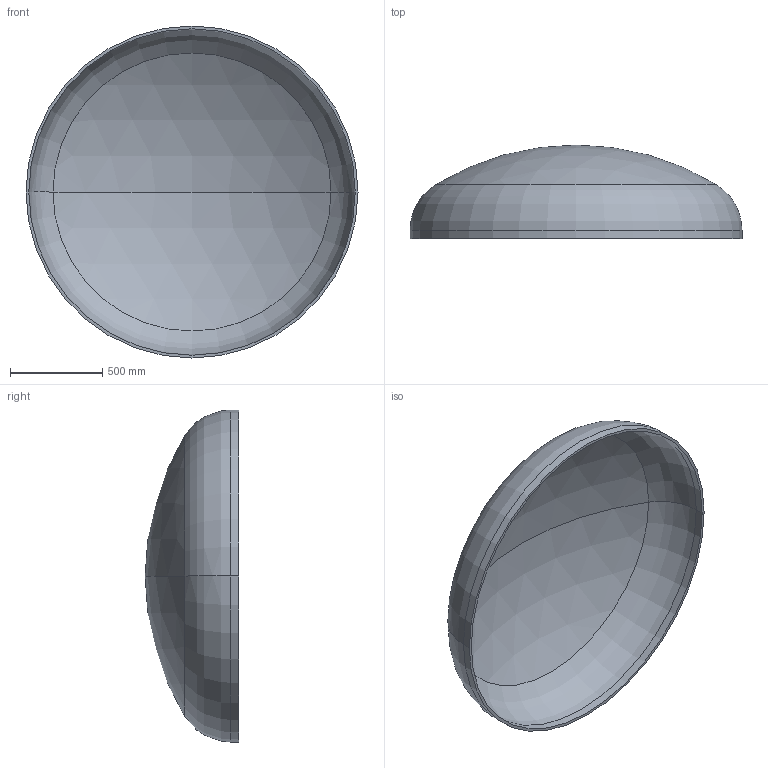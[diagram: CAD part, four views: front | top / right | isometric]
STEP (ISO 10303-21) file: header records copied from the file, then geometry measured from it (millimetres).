
FILE_DESCRIPTION (( 'STEP AP203' ), '1' );
FILE_NAME ('DIN 28013 Korbbogenform_-_Boden DIN 28013 - 1800 x 45 - I - s=15.step', '2016-07-01T12:18:19', ( '' ), ( '' ), 'SwSTEP 2.0', 'SolidWorks 2013', '' );
FILE_SCHEMA (( 'CONFIG_CONTROL_DESIGN' ));
Length unit declared in the file: millimetre
Products named in the file (1): DIN 28013 Korbbogenform_-_Boden DIN 28013 - 1800 x 45 - I - s=15
Bounding box: 1800 x 507.47 x 1800 mm (x, y, z)
Volume: 55990288.1 mm3; surface area: 7549956.3 mm2
Topology: 1 solids, 1 shells, 13 faces, 24 edges, 14 vertices
Faces by surface type: torus 4, cylinder 4, sphere 4, plane 1
Entity records: 407 total; most frequent: DIRECTION 72, CARTESIAN_POINT 52, ORIENTED_EDGE 48, AXIS2_PLACEMENT_3D 34, EDGE_CURVE 24, CIRCLE 20, VERTEX_POINT 14, EDGE_LOOP 14
